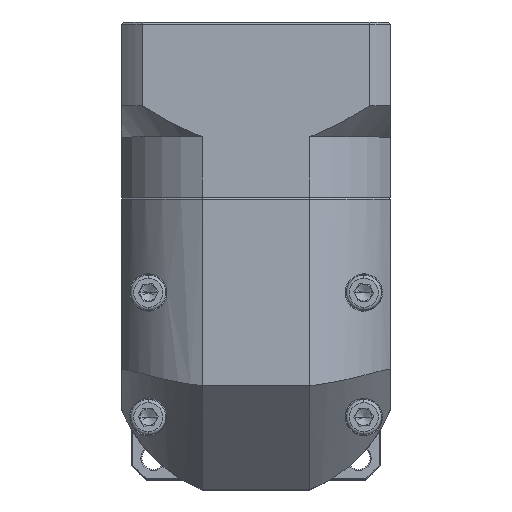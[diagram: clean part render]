
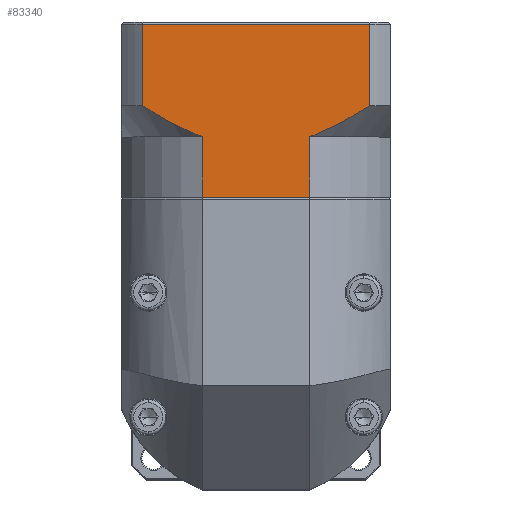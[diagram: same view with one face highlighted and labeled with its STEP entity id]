
A CAD part, top view. The second image highlights one B-rep face of the part: STEP entity #83340.
In plain terms, the highlighted planar face has unit normal (0, 0, 1).
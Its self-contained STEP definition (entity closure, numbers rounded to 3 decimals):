
#256 = CARTESIAN_POINT ( 'NONE',  ( -88.602, 92.026, 74.497 ) ) ;
#811 = CARTESIAN_POINT ( 'NONE',  ( -46.945, 85.017, 74.497 ) ) ;
#9021 = CARTESIAN_POINT ( 'NONE',  ( -41.993, 87.272, 74.497 ) ) ;
#10809 = EDGE_CURVE ( 'NONE', #114974, #22115, #101791, .T. ) ;
#11673 = LINE ( 'NONE', #92905, #87836 ) ;
#11728 = ORIENTED_EDGE ( 'NONE', *, *, #101546, .F. ) ;
#12646 = VERTEX_POINT ( 'NONE', #36667 ) ;
#13999 = EDGE_CURVE ( 'NONE', #114974, #91875, #105386, .T. ) ;
#15595 = CARTESIAN_POINT ( 'NONE',  ( -48.226, 84.526, 74.497 ) ) ;
#16690 = ORIENTED_EDGE ( 'NONE', *, *, #48014, .T. ) ;
#18186 = CARTESIAN_POINT ( 'NONE',  ( -74.207, 84.526, 74.497 ) ) ;
#18294 = VERTEX_POINT ( 'NONE', #112587 ) ;
#19199 = B_SPLINE_CURVE_WITH_KNOTS ( 'NONE', 3,
 ( #58999, #86122, #25385, #34276, #96199, #52734, #62003, #43474 ),
 .UNSPECIFIED., .F., .F.,
 ( 4, 2, 2, 4 ),
 ( 0.058, 0.062, 0.066, 0.074 ),
 .UNSPECIFIED. ) ;
#22115 = VERTEX_POINT ( 'NONE', #18186 ) ;
#25385 = CARTESIAN_POINT ( 'NONE',  ( -86.313, 90.577, 74.497 ) ) ;
#27294 = CARTESIAN_POINT ( 'NONE',  ( -48.226, 70.026, 74.497 ) ) ;
#27749 = CARTESIAN_POINT ( 'NONE',  ( -33.83, 92.026, 74.497 ) ) ;
#28310 = CARTESIAN_POINT ( 'NONE',  ( -93.716, 112.226, 74.497 ) ) ;
#29200 = VERTEX_POINT ( 'NONE', #34444 ) ;
#29994 = VECTOR ( 'NONE', #106862, 1000. ) ;
#34276 = CARTESIAN_POINT ( 'NONE',  ( -83.978, 89.193, 74.497 ) ) ;
#34444 = CARTESIAN_POINT ( 'NONE',  ( -33.83, 111.726, 74.497 ) ) ;
#35327 = CARTESIAN_POINT ( 'NONE',  ( -47.584, 84.764, 74.497 ) ) ;
#36667 = CARTESIAN_POINT ( 'NONE',  ( -88.602, 111.726, 74.497 ) ) ;
#36683 = ORIENTED_EDGE ( 'NONE', *, *, #10809, .F. ) ;
#37194 = DIRECTION ( 'NONE',  ( 1., 0., 0. ) ) ;
#38749 = CARTESIAN_POINT ( 'NONE',  ( -88.602, 84.526, 74.497 ) ) ;
#39602 = VECTOR ( 'NONE', #65790, 1000. ) ;
#43474 = CARTESIAN_POINT ( 'NONE',  ( -74.207, 84.526, 74.497 ) ) ;
#45657 = DIRECTION ( 'NONE',  ( 0., 1., 0. ) ) ;
#47908 = LINE ( 'NONE', #38749, #39602 ) ;
#48014 = EDGE_CURVE ( 'NONE', #95626, #22115, #19199, .T. ) ;
#52734 = CARTESIAN_POINT ( 'NONE',  ( -79.197, 86.613, 74.497 ) ) ;
#53039 = ORIENTED_EDGE ( 'NONE', *, *, #13999, .T. ) ;
#55298 = EDGE_CURVE ( 'NONE', #18294, #91875, #63173, .T. ) ;
#55414 = ORIENTED_EDGE ( 'NONE', *, *, #88273, .T. ) ;
#58205 = DIRECTION ( 'NONE',  ( -1., 0., 0. ) ) ;
#58999 = CARTESIAN_POINT ( 'NONE',  ( -88.602, 92.026, 74.497 ) ) ;
#61192 = CARTESIAN_POINT ( 'NONE',  ( -33.83, 92.026, 74.497 ) ) ;
#61953 = CARTESIAN_POINT ( 'NONE',  ( -45.683, 85.543, 74.497 ) ) ;
#62003 = CARTESIAN_POINT ( 'NONE',  ( -76.745, 85.468, 74.497 ) ) ;
#62651 = DIRECTION ( 'NONE',  ( 0., 0., -1. ) ) ;
#63173 = LINE ( 'NONE', #63289, #29994 ) ;
#63289 = CARTESIAN_POINT ( 'NONE',  ( -48.226, 84.526, 74.497 ) ) ;
#65012 = VECTOR ( 'NONE', #37194, 1000. ) ;
#65677 = FACE_OUTER_BOUND ( 'NONE', #105567, .T. ) ;
#65790 = DIRECTION ( 'NONE',  ( 0., 1., 0. ) ) ;
#70945 = CARTESIAN_POINT ( 'NONE',  ( -36.098, 90.564, 74.497 ) ) ;
#72638 = VECTOR ( 'NONE', #76501, 1000. ) ;
#74040 = EDGE_CURVE ( 'NONE', #95626, #12646, #47908, .T. ) ;
#75113 = DIRECTION ( 'NONE',  ( 0., -1., 0. ) ) ;
#76373 = ORIENTED_EDGE ( 'NONE', *, *, #55298, .F. ) ;
#76501 = DIRECTION ( 'NONE',  ( 0., 1., 0. ) ) ;
#80181 = VECTOR ( 'NONE', #58205, 1000. ) ;
#81351 = PLANE ( 'NONE',  #96683 ) ;
#83340 = ADVANCED_FACE ( 'NONE', ( #65677 ), #81351, .F. ) ;
#86122 = CARTESIAN_POINT ( 'NONE',  ( -87.464, 91.293, 74.497 ) ) ;
#87836 = VECTOR ( 'NONE', #75113, 1000. ) ;
#87990 = CARTESIAN_POINT ( 'NONE',  ( -45.059, 85.816, 74.497 ) ) ;
#88273 = EDGE_CURVE ( 'NONE', #18294, #112471, #109937, .T. ) ;
#91875 = VERTEX_POINT ( 'NONE', #27294 ) ;
#92905 = CARTESIAN_POINT ( 'NONE',  ( -33.83, 84.526, 74.497 ) ) ;
#94706 = CARTESIAN_POINT ( 'NONE',  ( -74.207, 84.526, 74.497 ) ) ;
#95626 = VERTEX_POINT ( 'NONE', #256 ) ;
#96199 = CARTESIAN_POINT ( 'NONE',  ( -82.792, 88.523, 74.497 ) ) ;
#96683 = AXIS2_PLACEMENT_3D ( 'NONE', #28310, #62651, #45657 ) ;
#96926 = CARTESIAN_POINT ( 'NONE',  ( -43.206, 86.667, 74.497 ) ) ;
#97489 = CARTESIAN_POINT ( 'NONE',  ( -74.207, 70.026, 74.497 ) ) ;
#98174 = ORIENTED_EDGE ( 'NONE', *, *, #111140, .T. ) ;
#98813 = CARTESIAN_POINT ( 'NONE',  ( -93.716, 70.026, 74.497 ) ) ;
#101546 = EDGE_CURVE ( 'NONE', #29200, #112471, #11673, .T. ) ;
#101791 = LINE ( 'NONE', #94706, #72638 ) ;
#103756 = LINE ( 'NONE', #110278, #80181 ) ;
#105181 = ORIENTED_EDGE ( 'NONE', *, *, #74040, .F. ) ;
#105386 = LINE ( 'NONE', #98813, #65012 ) ;
#105567 = EDGE_LOOP ( 'NONE', ( #11728, #98174, #105181, #16690, #36683, #53039, #76373, #55414 ) ) ;
#106862 = DIRECTION ( 'NONE',  ( 0., -1., 0. ) ) ;
#109937 = B_SPLINE_CURVE_WITH_KNOTS ( 'NONE', 3,
 ( #15595, #35327, #811, #61953, #87990, #96926, #9021, #114877, #70945, #61192 ),
 .UNSPECIFIED., .F., .F.,
 ( 4, 2, 2, 2, 4 ),
 ( 0.101, 0.103, 0.105, 0.109, 0.117 ),
 .UNSPECIFIED. ) ;
#110278 = CARTESIAN_POINT ( 'NONE',  ( -93.716, 111.726, 74.497 ) ) ;
#111140 = EDGE_CURVE ( 'NONE', #29200, #12646, #103756, .T. ) ;
#112471 = VERTEX_POINT ( 'NONE', #27749 ) ;
#112587 = CARTESIAN_POINT ( 'NONE',  ( -48.226, 84.526, 74.497 ) ) ;
#114877 = CARTESIAN_POINT ( 'NONE',  ( -38.412, 89.177, 74.497 ) ) ;
#114974 = VERTEX_POINT ( 'NONE', #97489 ) ;
